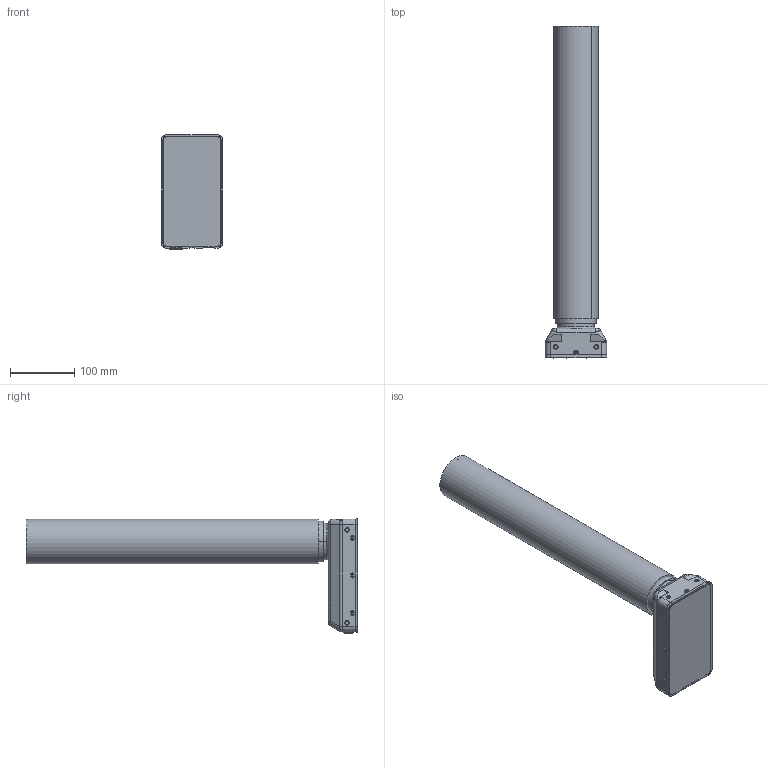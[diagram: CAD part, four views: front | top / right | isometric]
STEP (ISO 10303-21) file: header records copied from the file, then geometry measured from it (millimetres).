
FILE_DESCRIPTION((''),'2;1');
FILE_NAME('DL11_BIFMA_FOIL_ASM','2023-08-22T08:13:29',('mat'),(''),'CREO PARAMETRIC BY PTC INC, 2022024','CREO PARAMETRIC BY PTC INC, 2022024','');
FILE_SCHEMA(('AUTOMOTIVE_DESIGN { 1 0 10303 214 1 1 1 1 }'));
Length unit declared in the file: millimetre
Products named in the file (4): DL11_IN_BIFMA; DL11_MP_BIFMA; DL11_OP_BIFMA; DL11_BIFMA_FOIL_ASM
Assembly tree (3 placements, depth 2):
  DL11_BIFMA_FOIL_ASM
    DL11_IN_BIFMA
    DL11_MP_BIFMA
    DL11_OP_BIFMA
Bounding box: 96.5 x 518 x 178.6 mm (x, y, z)
Volume: 4805981.1 mm3; surface area: 329476.5 mm2
Topology: 3 solids, 3 shells, 761 faces, 2028 edges, 1295 vertices
Faces by surface type: plane 319, cylinder 300, torus 74, bspline 44, sphere 14, cone 10
Entity records: 30024 total; most frequent: CARTESIAN_POINT 7564, ORIENTED_EDGE 4032, DIRECTION 3917, EDGE_CURVE 2016, AXIS2_PLACEMENT_3D 1448, VERTEX_POINT 1295, VECTOR 1021, LINE 1021
